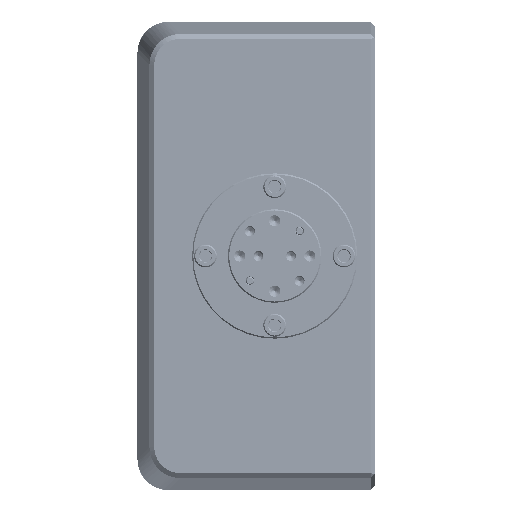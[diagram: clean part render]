
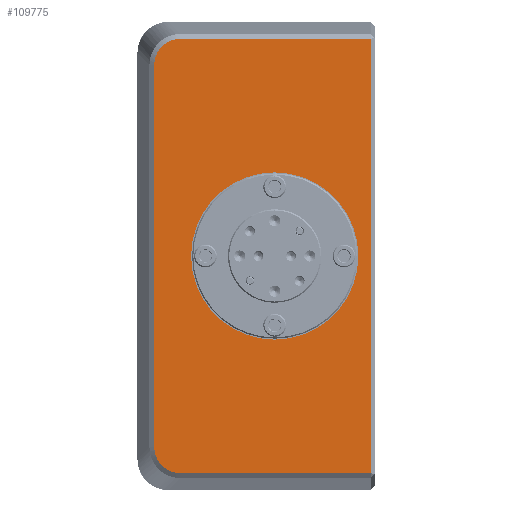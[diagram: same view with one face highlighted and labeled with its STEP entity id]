
A CAD part, left-side view. The second image highlights one B-rep face of the part: STEP entity #109775.
In plain terms, the highlighted planar face has unit normal (-1, 0, 0).
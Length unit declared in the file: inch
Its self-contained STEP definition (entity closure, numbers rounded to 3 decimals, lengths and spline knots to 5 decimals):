
#1478 = CARTESIAN_POINT ( 'NONE',  ( -0.753, 1.75839, -1.58565 ) ) ;
#12998 = EDGE_CURVE ( 'NONE', #154794, #74260, #174692, .T. ) ;
#15428 = CARTESIAN_POINT ( 'NONE',  ( -0.753, 1.55616, 1.74008 ) ) ;
#16536 = CARTESIAN_POINT ( 'NONE',  ( -0.753, 1.73762, 1.63605 ) ) ;
#22994 = LINE ( 'NONE', #126010, #198734 ) ;
#23299 = EDGE_LOOP ( 'NONE', ( #203898, #168658 ) ) ;
#23894 = CARTESIAN_POINT ( 'NONE',  ( -0.753, 1.55616, -1.74008 ) ) ;
#31399 = EDGE_CURVE ( 'NONE', #61335, #207814, #65224, .T. ) ;
#32891 = CARTESIAN_POINT ( 'NONE',  ( -0.753, 1.73762, -1.63605 ) ) ;
#35193 = CARTESIAN_POINT ( 'NONE',  ( -0.753, 0.03, -1.74008 ) ) ;
#35551 = CARTESIAN_POINT ( 'NONE',  ( -0.753, 1.69449, 1.68872 ) ) ;
#41005 = CARTESIAN_POINT ( 'NONE',  ( -0.753, 0.8, 0. ) ) ;
#46059 = DIRECTION ( 'NONE',  ( 0., 0., -1. ) ) ;
#47301 = DIRECTION ( 'NONE',  ( 0., 1., 0. ) ) ;
#51198 = CARTESIAN_POINT ( 'NONE',  ( -0.753, 0.8, -0.67 ) ) ;
#51249 = CARTESIAN_POINT ( 'NONE',  ( -0.753, 1.64898, 1.71906 ) ) ;
#52364 = CARTESIAN_POINT ( 'NONE',  ( -0.753, 1.62378, 1.72944 ) ) ;
#57805 = ORIENTED_EDGE ( 'NONE', *, *, #124084, .T. ) ;
#58918 = DIRECTION ( 'NONE',  ( 0., 0., 1. ) ) ;
#59969 = DIRECTION ( 'NONE',  ( 0., -1., 0. ) ) ;
#61050 = CARTESIAN_POINT ( 'NONE',  ( -0.753, 0.95, 0. ) ) ;
#61335 = VERTEX_POINT ( 'NONE', #212507 ) ;
#64764 = CARTESIAN_POINT ( 'NONE',  ( -0.753, 1.75839, 1.58568 ) ) ;
#65224 = LINE ( 'NONE', #183860, #176123 ) ;
#67646 = CARTESIAN_POINT ( 'NONE',  ( -0.753, 1.68393, -1.69737 ) ) ;
#67965 = B_SPLINE_CURVE_WITH_KNOTS ( 'NONE', 3,
 ( #188479, #104545, #186264, #1478, #120233, #84435, #32891, #204135, #101248, #170561, #67646, #139204, #68729, #87737, #122407, #135885, #172765, #69847 ),
 .UNSPECIFIED., .F., .F.,
 ( 4, 2, 2, 2, 2, 2, 2, 2, 4 ),
 ( 0., 0.125, 0.25, 0.375, 0.5, 0.625, 0.75, 0.875, 1. ),
 .UNSPECIFIED. ) ;
#68729 = CARTESIAN_POINT ( 'NONE',  ( -0.753, 1.64899, -1.71905 ) ) ;
#69847 = CARTESIAN_POINT ( 'NONE',  ( -0.753, 1.55616, -1.74008 ) ) ;
#74250 = B_SPLINE_CURVE_WITH_KNOTS ( 'NONE', 3,
 ( #15428, #83758, #202375, #116255, #52364, #51249, #120657, #135208, #35551, #153085, #203474, #16536, #103877, #172080, #64764, #118449, #184505, #221356 ),
 .UNSPECIFIED., .F., .F.,
 ( 4, 2, 2, 2, 2, 2, 2, 2, 4 ),
 ( 0., 0.125, 0.25, 0.375, 0.5, 0.625, 0.75, 0.875, 1. ),
 .UNSPECIFIED. ) ;
#74260 = VERTEX_POINT ( 'NONE', #51198 ) ;
#75511 = EDGE_LOOP ( 'NONE', ( #133799, #125656, #200340, #115221, #176270, #57805 ) ) ;
#81923 = VECTOR ( 'NONE', #173328, 39.37008 ) ;
#83758 = CARTESIAN_POINT ( 'NONE',  ( -0.753, 1.56989, 1.74008 ) ) ;
#84435 = CARTESIAN_POINT ( 'NONE',  ( -0.753, 1.74406, -1.62398 ) ) ;
#85001 = LINE ( 'NONE', #105106, #81923 ) ;
#87737 = CARTESIAN_POINT ( 'NONE',  ( -0.753, 1.62377, -1.72945 ) ) ;
#91240 = EDGE_CURVE ( 'NONE', #207814, #186248, #74250, .T. ) ;
#92548 = VECTOR ( 'NONE', #46059, 39.37008 ) ;
#96809 = CARTESIAN_POINT ( 'NONE',  ( -0.753, 0.8, 0. ) ) ;
#98255 = CARTESIAN_POINT ( 'NONE',  ( -0.753, 1.55616, 1.74008 ) ) ;
#100705 = EDGE_CURVE ( 'NONE', #217272, #151232, #67965, .T. ) ;
#101248 = CARTESIAN_POINT ( 'NONE',  ( -0.753, 1.71372, -1.66949 ) ) ;
#102323 = DIRECTION ( 'NONE',  ( 0., 0., 1. ) ) ;
#103877 = CARTESIAN_POINT ( 'NONE',  ( -0.753, 1.74405, 1.62399 ) ) ;
#104545 = CARTESIAN_POINT ( 'NONE',  ( -0.753, 1.76508, -1.54489 ) ) ;
#104822 = CARTESIAN_POINT ( 'NONE',  ( -0.753, 1.76508, 1.53116 ) ) ;
#105106 = CARTESIAN_POINT ( 'NONE',  ( -0.753, 0.03, 0. ) ) ;
#109775 = ADVANCED_FACE ( 'NONE', ( #144979, #196492 ), #127121, .F. ) ;
#115221 = ORIENTED_EDGE ( 'NONE', *, *, #31399, .T. ) ;
#115465 = LINE ( 'NONE', #163619, #92548 ) ;
#116255 = CARTESIAN_POINT ( 'NONE',  ( -0.753, 1.61065, 1.73339 ) ) ;
#118449 = CARTESIAN_POINT ( 'NONE',  ( -0.753, 1.76374, 1.55859 ) ) ;
#120233 = CARTESIAN_POINT ( 'NONE',  ( -0.753, 1.75444, -1.59878 ) ) ;
#120657 = CARTESIAN_POINT ( 'NONE',  ( -0.753, 1.66105, 1.71262 ) ) ;
#122407 = CARTESIAN_POINT ( 'NONE',  ( -0.753, 1.61068, -1.73339 ) ) ;
#123216 = CIRCLE ( 'NONE', #194820, 0.67 ) ;
#124084 = EDGE_CURVE ( 'NONE', #186248, #217272, #115465, .T. ) ;
#125656 = ORIENTED_EDGE ( 'NONE', *, *, #150166, .T. ) ;
#126010 = CARTESIAN_POINT ( 'NONE',  ( -0.753, 0.95, -1.74008 ) ) ;
#127121 = PLANE ( 'NONE',  #196912 ) ;
#128316 = DIRECTION ( 'NONE',  ( -1., 0., 0. ) ) ;
#133799 = ORIENTED_EDGE ( 'NONE', *, *, #100705, .T. ) ;
#135208 = CARTESIAN_POINT ( 'NONE',  ( -0.753, 1.68393, 1.69737 ) ) ;
#135885 = CARTESIAN_POINT ( 'NONE',  ( -0.753, 1.58359, -1.73874 ) ) ;
#139204 = CARTESIAN_POINT ( 'NONE',  ( -0.753, 1.66105, -1.71262 ) ) ;
#144979 = FACE_BOUND ( 'NONE', #23299, .T. ) ;
#150166 = EDGE_CURVE ( 'NONE', #151232, #162971, #22994, .T. ) ;
#151232 = VERTEX_POINT ( 'NONE', #23894 ) ;
#153085 = CARTESIAN_POINT ( 'NONE',  ( -0.753, 1.71372, 1.6695 ) ) ;
#154794 = VERTEX_POINT ( 'NONE', #157819 ) ;
#157819 = CARTESIAN_POINT ( 'NONE',  ( -0.753, 0.8, 0.67 ) ) ;
#162971 = VERTEX_POINT ( 'NONE', #35193 ) ;
#163619 = CARTESIAN_POINT ( 'NONE',  ( -0.753, 1.76508, 0. ) ) ;
#163958 = DIRECTION ( 'NONE',  ( 1., 0., 0. ) ) ;
#165031 = DIRECTION ( 'NONE',  ( -1., 0., 0. ) ) ;
#168658 = ORIENTED_EDGE ( 'NONE', *, *, #190451, .F. ) ;
#170561 = CARTESIAN_POINT ( 'NONE',  ( -0.753, 1.6945, -1.68872 ) ) ;
#172080 = CARTESIAN_POINT ( 'NONE',  ( -0.753, 1.75445, 1.59877 ) ) ;
#172765 = CARTESIAN_POINT ( 'NONE',  ( -0.753, 1.56993, -1.74008 ) ) ;
#173328 = DIRECTION ( 'NONE',  ( 0., 0., 1. ) ) ;
#174692 = CIRCLE ( 'NONE', #199813, 0.67 ) ;
#176123 = VECTOR ( 'NONE', #47301, 39.37008 ) ;
#176232 = EDGE_CURVE ( 'NONE', #162971, #61335, #85001, .T. ) ;
#176270 = ORIENTED_EDGE ( 'NONE', *, *, #91240, .T. ) ;
#183860 = CARTESIAN_POINT ( 'NONE',  ( -0.753, 0.95, 1.74008 ) ) ;
#184505 = CARTESIAN_POINT ( 'NONE',  ( -0.753, 1.76508, 1.54493 ) ) ;
#186248 = VERTEX_POINT ( 'NONE', #104822 ) ;
#186264 = CARTESIAN_POINT ( 'NONE',  ( -0.753, 1.76373, -1.55857 ) ) ;
#188479 = CARTESIAN_POINT ( 'NONE',  ( -0.753, 1.76508, -1.53116 ) ) ;
#190451 = EDGE_CURVE ( 'NONE', #74260, #154794, #123216, .T. ) ;
#192616 = CARTESIAN_POINT ( 'NONE',  ( -0.753, 1.76508, -1.53116 ) ) ;
#194820 = AXIS2_PLACEMENT_3D ( 'NONE', #41005, #128316, #58918 ) ;
#196492 = FACE_OUTER_BOUND ( 'NONE', #75511, .T. ) ;
#196912 = AXIS2_PLACEMENT_3D ( 'NONE', #61050, #163958, #197579 ) ;
#197579 = DIRECTION ( 'NONE',  ( 0., 0., -1. ) ) ;
#198734 = VECTOR ( 'NONE', #59969, 39.37008 ) ;
#199813 = AXIS2_PLACEMENT_3D ( 'NONE', #96809, #165031, #102323 ) ;
#200340 = ORIENTED_EDGE ( 'NONE', *, *, #176232, .T. ) ;
#202375 = CARTESIAN_POINT ( 'NONE',  ( -0.753, 1.58357, 1.73873 ) ) ;
#203474 = CARTESIAN_POINT ( 'NONE',  ( -0.753, 1.72237, 1.65893 ) ) ;
#203898 = ORIENTED_EDGE ( 'NONE', *, *, #12998, .F. ) ;
#204135 = CARTESIAN_POINT ( 'NONE',  ( -0.753, 1.72237, -1.65893 ) ) ;
#207814 = VERTEX_POINT ( 'NONE', #98255 ) ;
#212507 = CARTESIAN_POINT ( 'NONE',  ( -0.753, 0.03, 1.74008 ) ) ;
#217272 = VERTEX_POINT ( 'NONE', #192616 ) ;
#221356 = CARTESIAN_POINT ( 'NONE',  ( -0.753, 1.76508, 1.53116 ) ) ;
